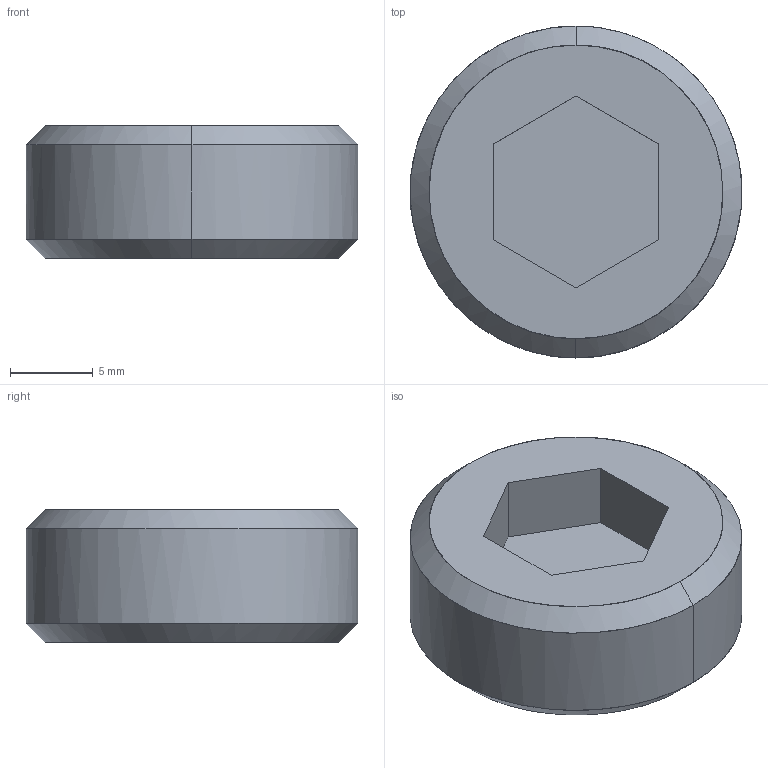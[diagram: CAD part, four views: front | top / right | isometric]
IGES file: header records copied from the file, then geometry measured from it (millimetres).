
Global section: file name: E:\UnigraphicsGraphicData\MISUMI_PRESS-PARTS\IGES\3d_msws20-8_00523_r00.igs; native system: NX V5.0; preprocessor: UGS NX IGES V5.0; author: MISUMI; date: 20110105.161525; units: millimetre
Bounding box: 19.98 x 20 x 8 mm (x, y, z)
Surface area: 1183.1 mm2 (no closed solid volume)
Topology: 0 solids, 0 shells, 15 faces, 76 edges, 76 vertices
Faces by surface type: bspline 15
